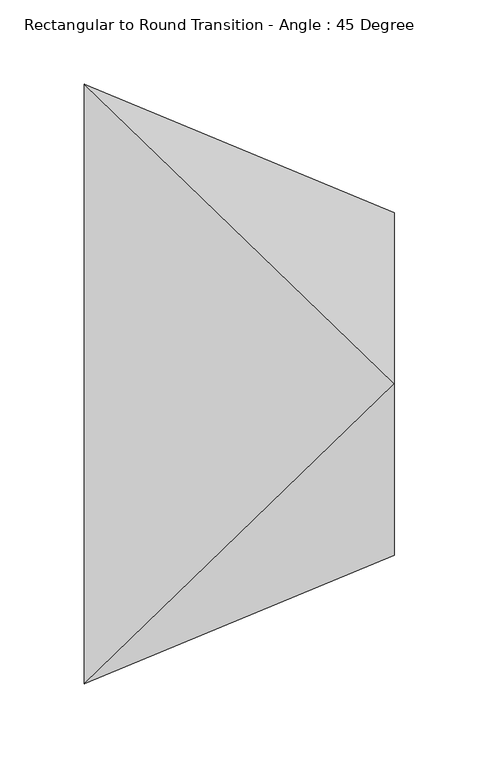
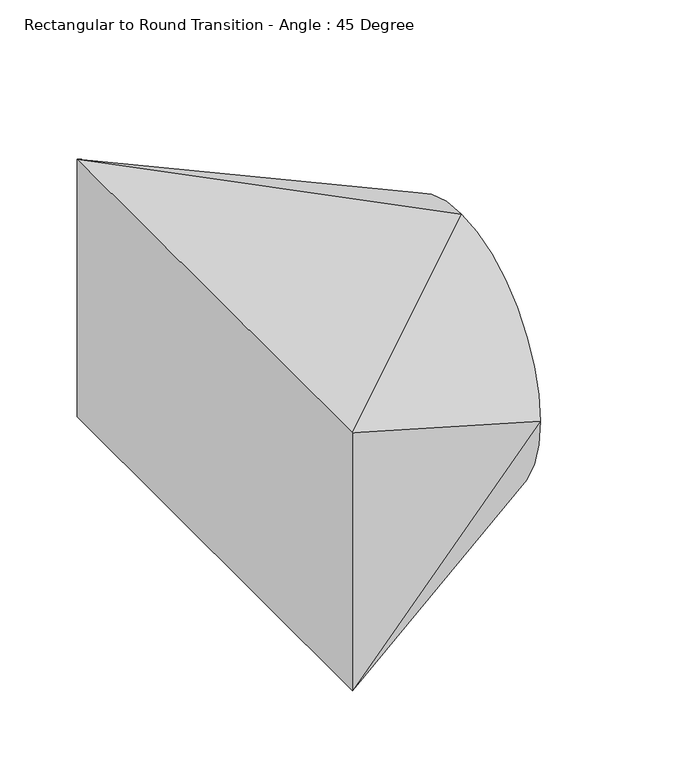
"""IFC4 building model written with IfcOpenShell, lengths in millimetres: duct fitting geometry, Rectangular to Round Transition - Angle : 45 Degree."""

from ifc_helpers import new_model, si_unit, frame, origin, place, context, project, spatial, circle_curve, source, transform, mapped, element, save
from ifc_brep_helpers import plane_surface, spline_surface, advanced_brep


def rectangular_to_round_transition_angle_45_degree_3a9c6b82(model_context):
    return source(origin(), model_context, "Body", "AdvancedBrep", [
        advanced_brep(
        [(183.9630735, 0.0, 101.6), (183.9630735, -101.6, 0.0), (183.9630735, 0.0, -101.6), (183.9630735, 101.6, 0.0), (0.0, -177.8, 101.6), (0.0, 177.8, 101.6), (0.0, 177.8, -101.6), (0.0, -177.8, -101.6)],
        [
            (0, 1, circle_curve(frame((183.9630735, 0.0, 0.0), z_axis=(1.0, 0.0, 0.0), x_axis=(0.0, 1.0, 0.0)), 101.6)),
            (1, 2, circle_curve(frame((183.9630735, 0.0, 0.0), z_axis=(1.0, 0.0, 0.0), x_axis=(0.0, 1.0, 0.0)), 101.6)),
            (2, 3, circle_curve(frame((183.9630735, 0.0, 0.0), z_axis=(1.0, 0.0, 0.0), x_axis=(0.0, 1.0, 0.0)), 101.6)),
            (3, 0, circle_curve(frame((183.9630735, 0.0, 0.0), z_axis=(1.0, 0.0, 0.0), x_axis=(0.0, 1.0, 0.0)), 101.6)),
            (4, 5),
            (5, 6),
            (6, 7),
            (7, 4),
            (0, 4),
            (4, 1),
            (7, 1),
            (7, 2),
            (6, 2),
            (6, 3),
            (5, 3),
            (5, 0),
        ],
        [
            plane_surface(frame((183.9630735, 0.0, 0.0), z_axis=(1.0, 0.0, 0.0), x_axis=(0.0, 0.0, -1.0))),
            plane_surface(frame((0.0, 0.0, 0.0), z_axis=(-1.0, 0.0, 0.0), x_axis=(0.0, 0.0, -1.0))),
            spline_surface(2, 1, [[(0.0, -177.8, 101.6), (183.9630735, 0.0, 101.6)], [(0.0, -177.8, 101.6), (183.9630735, -101.6, 101.6)], [(0.0, -177.8, 101.6), (183.9630735, -101.6, 0.0)]], [3, 3], [2, 2], [0.0, 1.0], [0.0, 1.0], weights=[[1.0, 1.0], [0.7071067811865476, 0.7071067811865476], [1.0, 1.0]]),
            plane_surface(frame((0.0, -177.8, 0.0), z_axis=(0.3826834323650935, -0.9238795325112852, 0.0), x_axis=(0.0, 0.0, -1.0))),
            spline_surface(2, 1, [[(0.0, -177.8, -101.6), (183.9630735, -101.6, 0.0)], [(0.0, -177.8, -101.6), (183.9630735, -101.6, -101.6)], [(0.0, -177.8, -101.6), (183.9630735, 0.0, -101.6)]], [3, 3], [2, 2], [0.0, 1.0], [0.0, 1.0], weights=[[1.0, 1.0], [0.7071067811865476, 0.7071067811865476], [1.0, 1.0]]),
            plane_surface(frame((0.0, 0.0, -101.6), z_axis=(0.0, 0.0, -1.0), x_axis=(0.0, 1.0, 0.0))),
            spline_surface(2, 1, [[(0.0, 177.8, -101.6), (183.9630735, 0.0, -101.6)], [(0.0, 177.8, -101.6), (183.9630735, 101.6, -101.6)], [(0.0, 177.8, -101.6), (183.9630735, 101.6, 0.0)]], [3, 3], [2, 2], [0.0, 1.0], [0.0, 1.0], weights=[[1.0, 1.0], [0.7071067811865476, 0.7071067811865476], [1.0, 1.0]]),
            plane_surface(frame((0.0, 177.8, 0.0), z_axis=(0.38268343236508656, 0.9238795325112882, 0.0), x_axis=(0.0, 0.0, 1.0))),
            spline_surface(2, 1, [[(0.0, 177.8, 101.6), (183.9630735, 101.6, 0.0)], [(0.0, 177.8, 101.6), (183.9630735, 101.6, 101.6)], [(0.0, 177.8, 101.6), (183.9630735, 0.0, 101.6)]], [3, 3], [2, 2], [0.0, 1.0], [0.0, 1.0], weights=[[1.0, 1.0], [0.7071067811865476, 0.7071067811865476], [1.0, 1.0]]),
            plane_surface(frame((0.0, 0.0, 101.6), z_axis=(0.0, 0.0, 1.0), x_axis=(0.0, -1.0, 0.0))),
        ],
        [
            (0, [[1, 2, 3, 4]]),
            (1, [[5, 6, 7, 8]]),
            (2, [[-1, 9, 10]]),
            (3, [[-8, 11, -10]]),
            (4, [[-2, -11, 12]]),
            (5, [[-7, 13, -12]]),
            (6, [[-3, -13, 14]]),
            (7, [[-6, 15, -14]]),
            (8, [[-4, -15, 16]]),
            (9, [[-5, -9, -16]]),
        ],
    ),
    ])


if __name__ == "__main__":
    model = new_model("IFC4")
    model_context = context("Model", 3, world=origin())
    ifc_project = project(units=[si_unit("LENGTHUNIT", "METRE", prefix="MILLI")], contexts=[model_context])
    site = spatial("IfcSite", under=ifc_project)
    building = spatial("IfcBuilding", under=site)
    placement = place(None, origin())
    rectangular_to_round_transition_angle_45_degree_shape = rectangular_to_round_transition_angle_45_degree_3a9c6b82(model_context)
    element("IfcDuctFitting", 1, ObjectType="Rectangular to Round Transition - Angle : 45 Degree", at=placement, inside=building, context=model_context, shape_type="MappedRepresentation", body=[
        mapped(rectangular_to_round_transition_angle_45_degree_shape, transform((0.0, 0.0, 0.0), x_axis=(1.0, 0.0, 0.0), y_axis=(0.0, 1.0, 0.0), z_axis=(0.0, 0.0, 1.0))),
    ])
    save(model, "model.ifc")
